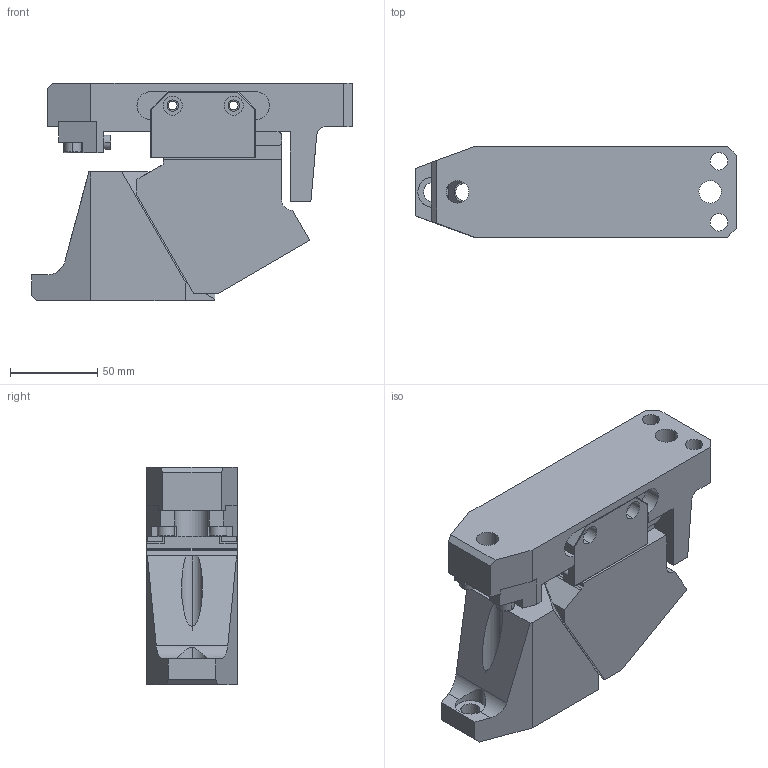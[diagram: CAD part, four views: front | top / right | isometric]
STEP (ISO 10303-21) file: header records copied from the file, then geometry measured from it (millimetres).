
FILE_DESCRIPTION (( 'STEP AP203' ), '1' );
FILE_NAME ('CLD052.60.step', '2014-05-05T08:34:49', ( '' ), ( '' ), 'SwSTEP 2.0', 'SolidWorks 2013', '' );
FILE_SCHEMA (( 'CONFIG_CONTROL_DESIGN' ));
Length unit declared in the file: millimetre
Products named in the file (4): CLD05260-02 CAM SLIDER; CLD05260-03 CAM DRIVER; CLD05260-01 CAM BASE; CLD052.60
Assembly tree (3 placements, depth 2):
  CLD052.60
    CLD05260-01 CAM BASE
    CLD05260-02 CAM SLIDER
    CLD05260-03 CAM DRIVER
Bounding box: 184 x 52 x 125 mm (x, y, z)
Volume: 709628.9 mm3; surface area: 119295.2 mm2
Topology: 3 solids, 7 shells, 364 faces, 944 edges, 599 vertices
Faces by surface type: plane 225, cylinder 112, cone 18, torus 9
Entity records: 11521 total; most frequent: CARTESIAN_POINT 2064, DIRECTION 1916, ORIENTED_EDGE 1868, EDGE_CURVE 934, AXIS2_PLACEMENT_3D 641, VECTOR 634, LINE 634, VERTEX_POINT 599
